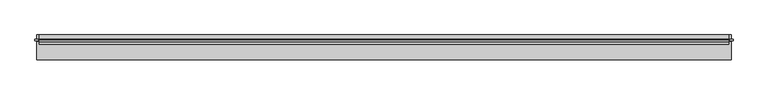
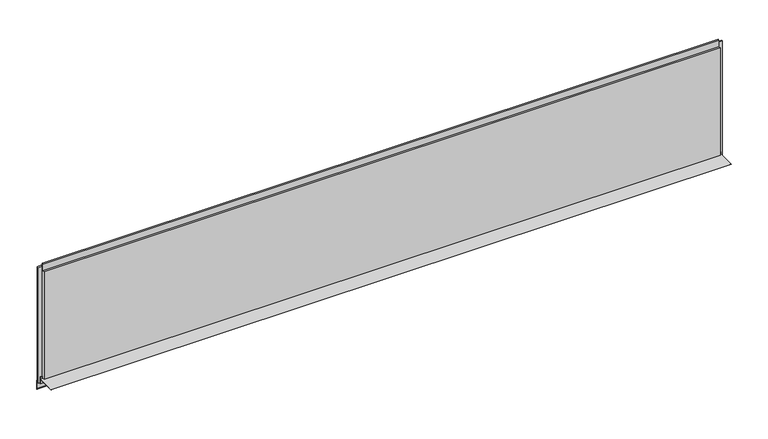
"""IFC4 building model written with IfcOpenShell, lengths in millimetres: plate geometry, Trimo_Qbiss Screen_Normal Panel-HORIZONTAL : HR - B."""

from ifc_helpers import new_model, si_unit, frame, origin, place, context, project, spatial, polyline, outline, extrude, source, transform, mapped, element, save


def plate_d0c6d3e6(model_context):
    return source(origin(), model_context, "Body", "SweptSolid", [
        extrude(outline(polyline([(66.7, 14.0835797), (67.5, 14.0835797), (67.5, -23.0), (100.0, -25.8433816), (100.0, -76.0), (87.1509533, -63.1509533), (87.7166388, -62.5852679), (99.2, -74.0686292), (99.2, -26.5764465), (66.7, -23.7330649), (66.7, 1.0), (-32.5, 1.0), (-32.5, 1.8), (66.7, 1.8), (66.7, 14.0835797)])), frame((-1858.712234, 0.0, 0.0), z_axis=(1.0, 0.0, 0.0), x_axis=(0.0, 1.0, 0.0)), (0.0, 0.0, 1.0), 3717.424468),
        extrude(outline(polyline([(-1849.212234, 76.5978162), (-1849.212234, 67.8978162), (-1868.212234, 67.8978162), (-1868.212234, 76.5978162), (-1849.212234, 76.5978162)])), frame((0.0, 0.0, -20.0), z_axis=(0.0, 0.0, 1.0), x_axis=(1.0, 0.0, 0.0)), (0.0, 0.0, 1.0), 669.0),
        extrude(outline(polyline([(1849.212234, 67.8978162), (1849.212234, 76.5978162), (1868.212234, 76.5978162), (1868.212234, 67.8978162), (1849.212234, 67.8978162)])), frame((0.0, 0.0, -20.0), z_axis=(0.0, 0.0, 1.0), x_axis=(1.0, 0.0, 0.0)), (0.0, 0.0, 1.0), 669.0),
        extrude(outline(polyline([(1846.212234, 76.0), (1846.212234, 71.0), (-1846.212234, 71.0), (-1846.212234, 76.0), (1846.212234, 76.0)])), frame((0.0, 0.0, 628.0), z_axis=(0.0, 0.0, 1.0), x_axis=(1.0, 0.0, 0.0)), (0.0, 0.0, 1.0), 21.0),
        extrude(outline(polyline([(71.0, 627.0), (100.0, 627.0), (100.0, 0.0), (72.0, 0.0), (72.0, 15.5), (62.0, 15.5), (62.0, 7.0), (50.0, 7.0), (50.0, 627.0), (63.0, 627.0), (63.0, 664.5), (71.0, 664.5), (71.0, 627.0)])), frame((-1846.212234, 0.0, 0.0), z_axis=(1.0, 0.0, 0.0), x_axis=(0.0, 1.0, 0.0)), (0.0, 0.0, 1.0), 3692.424468),
    ])


if __name__ == "__main__":
    model = new_model("IFC4")
    model_context = context("Model", 3, world=origin())
    ifc_project = project(units=[si_unit("LENGTHUNIT", "METRE", prefix="MILLI")], contexts=[model_context])
    site = spatial("IfcSite", under=ifc_project)
    building = spatial("IfcBuilding", under=site)
    placement = place(None, origin())
    plate_shape = plate_d0c6d3e6(model_context)
    element("IfcPlate", 1, ObjectType="Trimo_Qbiss Screen_Normal Panel-HORIZONTAL : HR - B", at=placement, inside=building, context=model_context, shape_type="MappedRepresentation", body=[
        mapped(plate_shape, transform((0.0, 0.0, 0.0), x_axis=(1.0, 0.0, 0.0), y_axis=(0.0, 1.0, 0.0), z_axis=(0.0, 0.0, 1.0))),
    ])
    save(model, "model.ifc")
